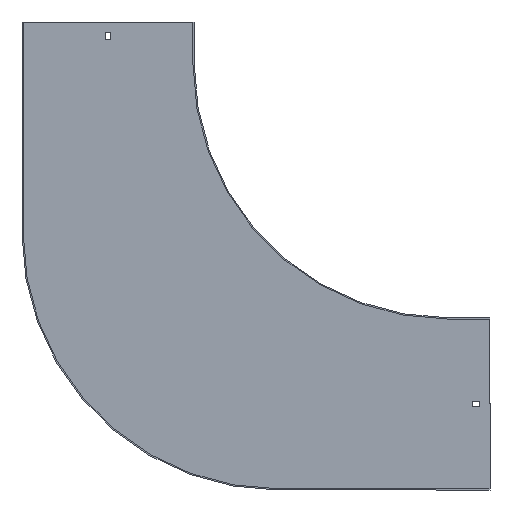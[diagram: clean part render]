
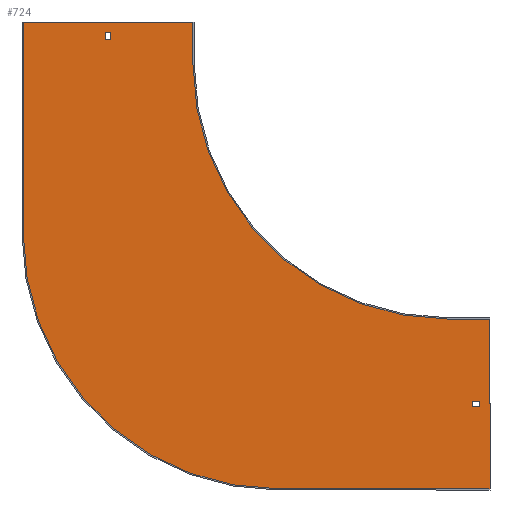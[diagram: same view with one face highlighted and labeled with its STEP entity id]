
A CAD part, front view. The second image highlights one B-rep face of the part: STEP entity #724.
In plain terms, the highlighted planar face has unit normal (0, -1, 0).
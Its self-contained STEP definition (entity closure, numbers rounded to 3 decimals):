
#5 = ORIENTED_EDGE ( 'NONE', *, *, #10, .F. ) ;
#10 = EDGE_CURVE ( 'NONE', #287, #572, #793, .T. ) ;
#11 = CARTESIAN_POINT ( 'NONE',  ( -396.75, -1.5, 0. ) ) ;
#16 = CARTESIAN_POINT ( 'NONE',  ( -403.25, -1.5, 29. ) ) ;
#33 = CARTESIAN_POINT ( 'NONE',  ( 0., -1.5, 29. ) ) ;
#37 = ORIENTED_EDGE ( 'NONE', *, *, #544, .T. ) ;
#45 = CARTESIAN_POINT ( 'NONE',  ( 50., -1.5, -300. ) ) ;
#51 = VECTOR ( 'NONE', #448, 1000. ) ;
#59 = DIRECTION ( 'NONE',  ( 0., -1., 0. ) ) ;
#60 = ORIENTED_EDGE ( 'NONE', *, *, #431, .F. ) ;
#61 = CARTESIAN_POINT ( 'NONE',  ( 38., -1.5, 0. ) ) ;
#64 = DIRECTION ( 'NONE',  ( -1., 0., 0. ) ) ;
#70 = CIRCLE ( 'NONE', #552, 300. ) ;
#73 = VERTEX_POINT ( 'NONE', #279 ) ;
#76 = LINE ( 'NONE', #400, #720 ) ;
#83 = ORIENTED_EDGE ( 'NONE', *, *, #857, .F. ) ;
#98 = VECTOR ( 'NONE', #825, 1000. ) ;
#124 = DIRECTION ( 'NONE',  ( 0., -1., 0. ) ) ;
#125 = VECTOR ( 'NONE', #343, 1000. ) ;
#127 = EDGE_CURVE ( 'NONE', #564, #254, #189, .T. ) ;
#133 = CARTESIAN_POINT ( 'NONE',  ( 0., -1.5, -300. ) ) ;
#134 = EDGE_CURVE ( 'NONE', #73, #219, #579, .T. ) ;
#137 = VERTEX_POINT ( 'NONE', #133 ) ;
#145 = DIRECTION ( 'NONE',  ( 0., 0., 1. ) ) ;
#160 = VERTEX_POINT ( 'NONE', #45 ) ;
#167 = ORIENTED_EDGE ( 'NONE', *, *, #134, .F. ) ;
#171 = VERTEX_POINT ( 'NONE', #859 ) ;
#173 = DIRECTION ( 'NONE',  ( 0., 0., -1. ) ) ;
#174 = AXIS2_PLACEMENT_3D ( 'NONE', #549, #761, #290 ) ;
#175 = VECTOR ( 'NONE', #602, 1000. ) ;
#180 = EDGE_LOOP ( 'NONE', ( #83, #834, #5, #783, #595, #270, #632, #446 ) ) ;
#181 = ORIENTED_EDGE ( 'NONE', *, *, #308, .F. ) ;
#188 = LINE ( 'NONE', #567, #196 ) ;
#189 = LINE ( 'NONE', #792, #51 ) ;
#196 = VECTOR ( 'NONE', #706, 1000. ) ;
#198 = DIRECTION ( 'NONE',  ( 1., 0., 0. ) ) ;
#202 = CARTESIAN_POINT ( 'NONE',  ( -500., -1.5, -200. ) ) ;
#206 = LINE ( 'NONE', #33, #381 ) ;
#216 = CARTESIAN_POINT ( 'NONE',  ( -501.5, -1.5, 50. ) ) ;
#219 = VERTEX_POINT ( 'NONE', #340 ) ;
#226 = LINE ( 'NONE', #216, #524 ) ;
#228 = DIRECTION ( 'NONE',  ( 1., 0., 0. ) ) ;
#234 = VECTOR ( 'NONE', #640, 1000. ) ;
#238 = ORIENTED_EDGE ( 'NONE', *, *, #465, .T. ) ;
#239 = CARTESIAN_POINT ( 'NONE',  ( 50., -1.5, -298.5 ) ) ;
#254 = VERTEX_POINT ( 'NONE', #668 ) ;
#256 = CARTESIAN_POINT ( 'NONE',  ( -396.75, -1.5, 38. ) ) ;
#257 = FACE_BOUND ( 'NONE', #581, .T. ) ;
#270 = ORIENTED_EDGE ( 'NONE', *, *, #460, .F. ) ;
#279 = CARTESIAN_POINT ( 'NONE',  ( 38., -1.5, -396.75 ) ) ;
#280 = EDGE_CURVE ( 'NONE', #171, #287, #408, .T. ) ;
#287 = VERTEX_POINT ( 'NONE', #836 ) ;
#290 = DIRECTION ( 'NONE',  ( 0., 0., -1. ) ) ;
#308 = EDGE_CURVE ( 'NONE', #437, #374, #322, .T. ) ;
#311 = CARTESIAN_POINT ( 'NONE',  ( 0., -1.5, -403.25 ) ) ;
#322 = LINE ( 'NONE', #311, #234 ) ;
#340 = CARTESIAN_POINT ( 'NONE',  ( 29., -1.5, -396.75 ) ) ;
#343 = DIRECTION ( 'NONE',  ( 0., 0., -1. ) ) ;
#369 = ORIENTED_EDGE ( 'NONE', *, *, #837, .T. ) ;
#374 = VERTEX_POINT ( 'NONE', #784 ) ;
#381 = VECTOR ( 'NONE', #702, 1000. ) ;
#384 = LINE ( 'NONE', #61, #175 ) ;
#400 = CARTESIAN_POINT ( 'NONE',  ( -403.25, -1.5, 0. ) ) ;
#408 = LINE ( 'NONE', #475, #664 ) ;
#410 = ORIENTED_EDGE ( 'NONE', *, *, #568, .F. ) ;
#416 = VECTOR ( 'NONE', #198, 1000. ) ;
#422 = CARTESIAN_POINT ( 'NONE',  ( -300., -1.5, 50. ) ) ;
#428 = EDGE_CURVE ( 'NONE', #254, #137, #70, .T. ) ;
#431 = EDGE_CURVE ( 'NONE', #374, #73, #384, .T. ) ;
#437 = VERTEX_POINT ( 'NONE', #667 ) ;
#446 = ORIENTED_EDGE ( 'NONE', *, *, #127, .F. ) ;
#448 = DIRECTION ( 'NONE',  ( 0., 0., -1. ) ) ;
#450 = CARTESIAN_POINT ( 'NONE',  ( 0., -1.5, 0. ) ) ;
#455 = VECTOR ( 'NONE', #503, 1000. ) ;
#460 = EDGE_CURVE ( 'NONE', #137, #160, #807, .T. ) ;
#465 = EDGE_CURVE ( 'NONE', #796, #566, #76, .T. ) ;
#474 = LINE ( 'NONE', #202, #813 ) ;
#475 = CARTESIAN_POINT ( 'NONE',  ( 50., -1.5, -500. ) ) ;
#497 = EDGE_LOOP ( 'NONE', ( #167, #60, #181, #410 ) ) ;
#503 = DIRECTION ( 'NONE',  ( 0., 0., -1. ) ) ;
#509 = CARTESIAN_POINT ( 'NONE',  ( -396.75, -1.5, 29. ) ) ;
#523 = EDGE_CURVE ( 'NONE', #572, #659, #474, .T. ) ;
#524 = VECTOR ( 'NONE', #228, 1000. ) ;
#525 = LINE ( 'NONE', #803, #416 ) ;
#540 = VECTOR ( 'NONE', #64, 1000. ) ;
#544 = EDGE_CURVE ( 'NONE', #725, #796, #206, .T. ) ;
#549 = CARTESIAN_POINT ( 'NONE',  ( -200., -1.5, -200. ) ) ;
#552 = AXIS2_PLACEMENT_3D ( 'NONE', #660, #124, #710 ) ;
#557 = CARTESIAN_POINT ( 'NONE',  ( -500., -1.5, 50. ) ) ;
#564 = VERTEX_POINT ( 'NONE', #422 ) ;
#566 = VERTEX_POINT ( 'NONE', #791 ) ;
#567 = CARTESIAN_POINT ( 'NONE',  ( 29., -1.5, 0. ) ) ;
#568 = EDGE_CURVE ( 'NONE', #219, #437, #188, .T. ) ;
#572 = VERTEX_POINT ( 'NONE', #802 ) ;
#579 = LINE ( 'NONE', #853, #540 ) ;
#581 = EDGE_LOOP ( 'NONE', ( #369, #787, #37, #238 ) ) ;
#595 = ORIENTED_EDGE ( 'NONE', *, *, #712, .F. ) ;
#602 = DIRECTION ( 'NONE',  ( 0., 0., 1. ) ) ;
#605 = VERTEX_POINT ( 'NONE', #256 ) ;
#632 = ORIENTED_EDGE ( 'NONE', *, *, #428, .F. ) ;
#640 = DIRECTION ( 'NONE',  ( 1., 0., 0. ) ) ;
#653 = FACE_OUTER_BOUND ( 'NONE', #180, .T. ) ;
#659 = VERTEX_POINT ( 'NONE', #557 ) ;
#660 = CARTESIAN_POINT ( 'NONE',  ( 0., -1.5, 0. ) ) ;
#664 = VECTOR ( 'NONE', #752, 1000. ) ;
#667 = CARTESIAN_POINT ( 'NONE',  ( 29., -1.5, -403.25 ) ) ;
#668 = CARTESIAN_POINT ( 'NONE',  ( -300., -1.5, 0. ) ) ;
#676 = CARTESIAN_POINT ( 'NONE',  ( 0., -1.5, -300. ) ) ;
#686 = DIRECTION ( 'NONE',  ( 0., 0., 1. ) ) ;
#702 = DIRECTION ( 'NONE',  ( -1., 0., 0. ) ) ;
#705 = AXIS2_PLACEMENT_3D ( 'NONE', #450, #59, #173 ) ;
#706 = DIRECTION ( 'NONE',  ( 0., 0., -1. ) ) ;
#710 = DIRECTION ( 'NONE',  ( 0., 0., -1. ) ) ;
#712 = EDGE_CURVE ( 'NONE', #160, #171, #855, .T. ) ;
#720 = VECTOR ( 'NONE', #145, 1000. ) ;
#724 = ADVANCED_FACE ( 'NONE', ( #776, #653, #257 ), #786, .T. ) ;
#725 = VERTEX_POINT ( 'NONE', #509 ) ;
#728 = LINE ( 'NONE', #11, #125 ) ;
#752 = DIRECTION ( 'NONE',  ( -1., 0., 0. ) ) ;
#761 = DIRECTION ( 'NONE',  ( 0., 1., 0. ) ) ;
#776 = FACE_BOUND ( 'NONE', #497, .T. ) ;
#778 = EDGE_CURVE ( 'NONE', #605, #725, #728, .T. ) ;
#783 = ORIENTED_EDGE ( 'NONE', *, *, #280, .F. ) ;
#784 = CARTESIAN_POINT ( 'NONE',  ( 38., -1.5, -403.25 ) ) ;
#786 = PLANE ( 'NONE',  #705 ) ;
#787 = ORIENTED_EDGE ( 'NONE', *, *, #778, .T. ) ;
#791 = CARTESIAN_POINT ( 'NONE',  ( -403.25, -1.5, 38. ) ) ;
#792 = CARTESIAN_POINT ( 'NONE',  ( -300., -1.5, 50. ) ) ;
#793 = CIRCLE ( 'NONE', #174, 300. ) ;
#796 = VERTEX_POINT ( 'NONE', #16 ) ;
#802 = CARTESIAN_POINT ( 'NONE',  ( -500., -1.5, -200. ) ) ;
#803 = CARTESIAN_POINT ( 'NONE',  ( 0., -1.5, 38. ) ) ;
#807 = LINE ( 'NONE', #676, #98 ) ;
#813 = VECTOR ( 'NONE', #686, 1000. ) ;
#825 = DIRECTION ( 'NONE',  ( 1., 0., 0. ) ) ;
#834 = ORIENTED_EDGE ( 'NONE', *, *, #523, .F. ) ;
#836 = CARTESIAN_POINT ( 'NONE',  ( -200., -1.5, -500. ) ) ;
#837 = EDGE_CURVE ( 'NONE', #566, #605, #525, .T. ) ;
#853 = CARTESIAN_POINT ( 'NONE',  ( 0., -1.5, -396.75 ) ) ;
#855 = LINE ( 'NONE', #239, #455 ) ;
#857 = EDGE_CURVE ( 'NONE', #659, #564, #226, .T. ) ;
#859 = CARTESIAN_POINT ( 'NONE',  ( 50., -1.5, -500. ) ) ;
